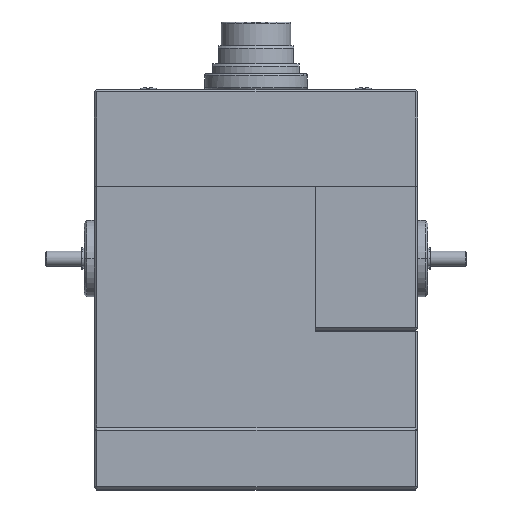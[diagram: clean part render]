
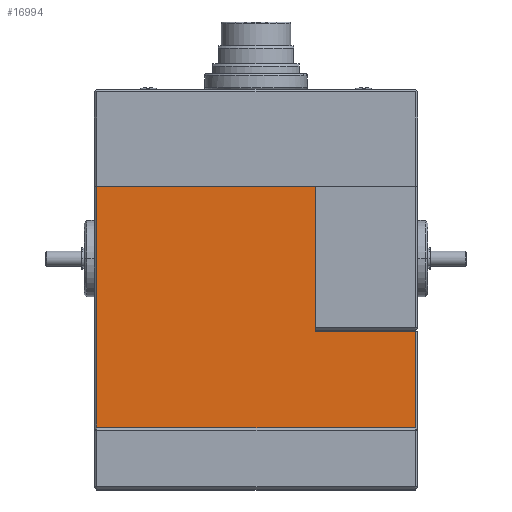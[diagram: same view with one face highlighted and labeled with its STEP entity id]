
A CAD part, top view. The second image highlights one B-rep face of the part: STEP entity #16994.
In plain terms, the highlighted planar face has unit normal (0, 0, 1).
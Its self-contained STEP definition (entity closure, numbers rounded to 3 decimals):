
#5302 = DIRECTION ( 'NONE',  ( 0., -1., 0. ) ) ;
#8042 = VECTOR ( 'NONE', #45402, 1000. ) ;
#12582 = EDGE_CURVE ( 'NONE', #100418, #139567, #128206, .T. ) ;
#15091 = AXIS2_PLACEMENT_3D ( 'NONE', #29348, #71921, #60285 ) ;
#15307 = CARTESIAN_POINT ( 'NONE',  ( -42.5, -33., 16. ) ) ;
#16994 = ADVANCED_FACE ( 'NONE', ( #99934 ), #144412, .T. ) ;
#20432 = LINE ( 'NONE', #67758, #102158 ) ;
#29348 = CARTESIAN_POINT ( 'NONE',  ( -45., 14., 16. ) ) ;
#30778 = ORIENTED_EDGE ( 'NONE', *, *, #153057, .F. ) ;
#33791 = VECTOR ( 'NONE', #172675, 1000. ) ;
#41995 = CARTESIAN_POINT ( 'NONE',  ( 0., 14., 16. ) ) ;
#45402 = DIRECTION ( 'NONE',  ( 1., 0., 0. ) ) ;
#49366 = DIRECTION ( 'NONE',  ( 1., 0., 0. ) ) ;
#50266 = ORIENTED_EDGE ( 'NONE', *, *, #12582, .F. ) ;
#55969 = ORIENTED_EDGE ( 'NONE', *, *, #149354, .T. ) ;
#59544 = LINE ( 'NONE', #191041, #33791 ) ;
#60285 = DIRECTION ( 'NONE',  ( 0., -1., 0. ) ) ;
#61464 = CARTESIAN_POINT ( 'NONE',  ( 19.5, -14.2, 16. ) ) ;
#64389 = CARTESIAN_POINT ( 'NONE',  ( -45., 14., 16. ) ) ;
#65331 = LINE ( 'NONE', #64389, #8042 ) ;
#67376 = CARTESIAN_POINT ( 'NONE',  ( 19.5, -33., 16. ) ) ;
#67758 = CARTESIAN_POINT ( 'NONE',  ( 19.5, -14.2, 16. ) ) ;
#71921 = DIRECTION ( 'NONE',  ( 0., 0., 1. ) ) ;
#75739 = VERTEX_POINT ( 'NONE', #41995 ) ;
#75940 = VERTEX_POINT ( 'NONE', #15307 ) ;
#77750 = CARTESIAN_POINT ( 'NONE',  ( 0., 14., 16. ) ) ;
#96646 = LINE ( 'NONE', #108281, #153043 ) ;
#98680 = EDGE_CURVE ( 'NONE', #158712, #75940, #59544, .T. ) ;
#99934 = FACE_OUTER_BOUND ( 'NONE', #171307, .T. ) ;
#100418 = VERTEX_POINT ( 'NONE', #168893 ) ;
#101956 = VERTEX_POINT ( 'NONE', #67376 ) ;
#102158 = VECTOR ( 'NONE', #123795, 1000. ) ;
#108281 = CARTESIAN_POINT ( 'NONE',  ( -45., -33., 16. ) ) ;
#123795 = DIRECTION ( 'NONE',  ( 0., 1., 0. ) ) ;
#128206 = LINE ( 'NONE', #186312, #138954 ) ;
#138954 = VECTOR ( 'NONE', #143745, 1000. ) ;
#139567 = VERTEX_POINT ( 'NONE', #61464 ) ;
#143745 = DIRECTION ( 'NONE',  ( 1., 0., 0. ) ) ;
#144412 = PLANE ( 'NONE',  #15091 ) ;
#149354 = EDGE_CURVE ( 'NONE', #75940, #101956, #96646, .T. ) ;
#153043 = VECTOR ( 'NONE', #49366, 1000. ) ;
#153057 = EDGE_CURVE ( 'NONE', #75739, #100418, #164878, .T. ) ;
#157508 = ORIENTED_EDGE ( 'NONE', *, *, #165578, .F. ) ;
#158712 = VERTEX_POINT ( 'NONE', #168670 ) ;
#164708 = VECTOR ( 'NONE', #5302, 1000. ) ;
#164878 = LINE ( 'NONE', #77750, #164708 ) ;
#165578 = EDGE_CURVE ( 'NONE', #158712, #75739, #65331, .T. ) ;
#168670 = CARTESIAN_POINT ( 'NONE',  ( -42.5, 14., 16. ) ) ;
#168893 = CARTESIAN_POINT ( 'NONE',  ( 0., -14.2, 16. ) ) ;
#171307 = EDGE_LOOP ( 'NONE', ( #157508, #176139, #55969, #177317, #50266, #30778 ) ) ;
#172675 = DIRECTION ( 'NONE',  ( 0., -1., 0. ) ) ;
#176139 = ORIENTED_EDGE ( 'NONE', *, *, #98680, .T. ) ;
#177317 = ORIENTED_EDGE ( 'NONE', *, *, #185175, .T. ) ;
#185175 = EDGE_CURVE ( 'NONE', #101956, #139567, #20432, .T. ) ;
#186312 = CARTESIAN_POINT ( 'NONE',  ( 0., -14.2, 16. ) ) ;
#191041 = CARTESIAN_POINT ( 'NONE',  ( -42.5, 14., 16. ) ) ;
